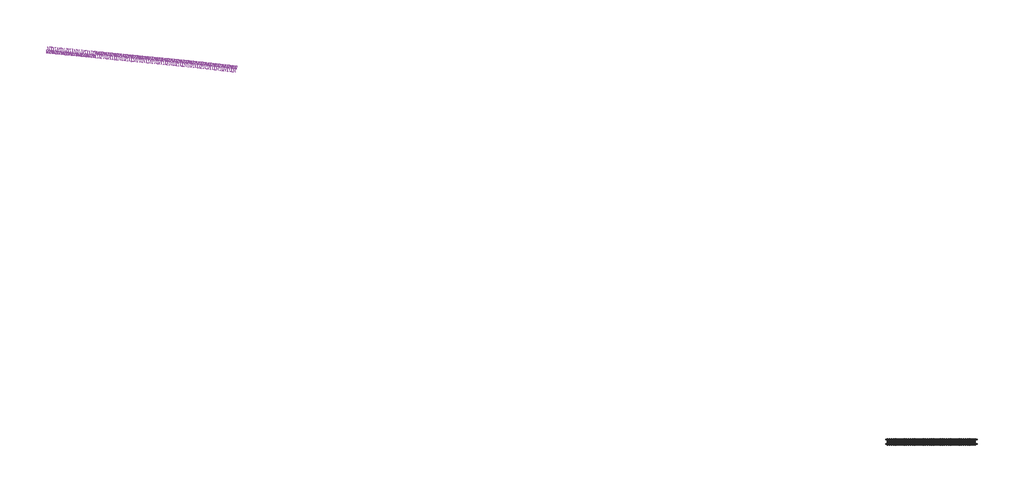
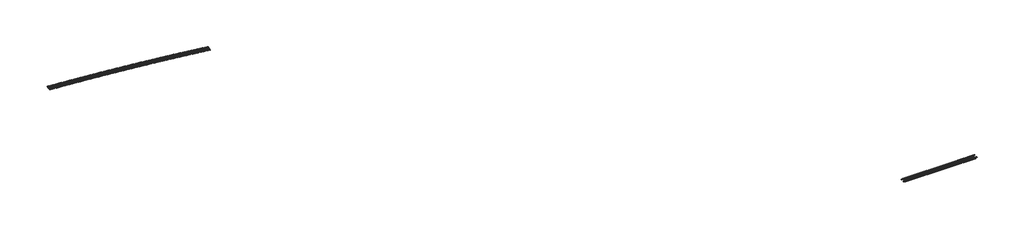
# One storey, incomplete: 101 proxies, 1 beam.
"""IFC4 building model written with IfcOpenShell, lengths in millimetres."""

from ifc_helpers import new_model, si_unit, origin, place, context, project, spatial, transform, mapped, element, save
from components import beam_23171de8, generic_models_179fccb8, generic_models_ea4c993b, generic_models_ed3b71c7, generic_models_61b4f6cf, generic_models_5d0987d1, generic_models_8ed5b6d6, generic_models_86caeae3, generic_models_1adfb590, generic_models_c417fa0d, generic_models_dda2165d, generic_models_a6f90dc1, generic_models_0867c004, generic_models_b2339178, generic_models_98fa9b51, generic_models_01f94ae9, generic_models_043a35da, generic_models_c67f2c29, generic_models_156f3868, generic_models_13331742, generic_models_0d819f28, generic_models_bf0e6d81, generic_models_ec5337a3, generic_models_47e99a7a, generic_models_9c5fc2fe, generic_models_2c5e1e1f, generic_models_77109654, generic_models_187618a6, generic_models_36daaabd, generic_models_f6c2db3f, generic_models_1d3b1d61, generic_models_3818f4c7, generic_models_c544768d, generic_models_72948029, generic_models_dd2f06ac, generic_models_d70fb252, generic_models_4213d253, generic_models_a7439df7, generic_models_e8be50a1, generic_models_772f56ea, generic_models_eaf7fc0b, generic_models_beb8aa8f, generic_models_f02bd38a, generic_models_c754ccd0, generic_models_18f15232, generic_models_4fb6ce47, generic_models_d8a670aa, generic_models_1a4d9871, generic_models_e3a1b71d, generic_models_530a410d, generic_models_fe35dbd4, generic_models_3ec5e151, generic_models_936076ed, generic_models_f7b6edd5, generic_models_f7a9a12e, generic_models_0c4ac25e, generic_models_b0db9e45, generic_models_cefc3702, generic_models_38f69925, generic_models_1c279534, generic_models_e3718a07, generic_models_45b08c93, generic_models_d64c65d5, generic_models_d60f3cee, generic_models_a82ee30d, generic_models_38b48816, generic_models_0c9b72dc, generic_models_50e4a4a2, generic_models_ad6345b7, generic_models_1f48964c, generic_models_43f668e8, generic_models_93a9f04b, generic_models_ad5c2b97, generic_models_d674cbcc, generic_models_04158120, generic_models_c52056a7, generic_models_c93b52b8, generic_models_31639ee7, generic_models_8f825d83, generic_models_c732b215, generic_models_11ccf94b, generic_models_1c9ec795, generic_models_1d941e77, generic_models_b9d4fef1, generic_models_031e3dbe, generic_models_11c14676, generic_models_1397490d

model = new_model("IFC4")

# Units and contexts
model_context = context("Model", 3, world=origin())
ifc_project = project(units=[si_unit("LENGTHUNIT", "METRE", prefix="MILLI")], contexts=[model_context])

# Site, building, storey
site = spatial("IfcSite", under=ifc_project)
building = spatial("IfcBuilding", under=site)
storey = spatial("IfcBuildingStorey", under=building, Name="标高 2", Elevation=3000.0)

# Beam
placement = place(None, origin())
beam_shape = beam_23171de8(model_context)
element("IfcBeam", 1, ObjectType="轨道 : 轨道", at=placement, inside=storey, context=model_context, shape_type="MappedRepresentation", body=[
    mapped(beam_shape, transform((-2607.9451664, 7300.2704196, 3000.0), x_axis=(1.0, 0.0, 0.0), y_axis=(0.0, 1.0, 0.0), z_axis=(0.0, 0.0, 1.0))),
])

# Proxies
generic_models_shape = generic_models_179fccb8(model_context)
element("IfcBuildingElementProxy", 2, Name="轨枕-立面角度 : 轨枕-立面角度", ObjectType="轨枕-立面角度 : 轨枕-立面角度", at=placement, inside=storey, context=model_context, shape_type="MappedRepresentation", body=[
    mapped(generic_models_shape, transform((-282406.83332, 131306.0226466, 59323.0), x_axis=(-0.09785183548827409, -0.9952009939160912, 0.0), y_axis=(0.9952009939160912, -0.09785183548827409, 0.0), z_axis=(0.0, 0.0, 1.0))),
])
generic_models_2_shape = generic_models_ea4c993b(model_context)
element("IfcBuildingElementProxy", 3, Name="轨枕-立面角度 : 轨枕-立面角度", ObjectType="轨枕-立面角度 : 轨枕-立面角度", at=placement, inside=storey, context=model_context, shape_type="MappedRepresentation", body=[
    mapped(generic_models_2_shape, transform((-281809.7127237, 131247.311545, 59331.8840867), x_axis=(-0.09785183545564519, -0.9952009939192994, 0.0), y_axis=(0.9952009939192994, -0.09785183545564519, 0.0), z_axis=(0.0, 0.0, 1.0))),
])
generic_models_3_shape = generic_models_ed3b71c7(model_context)
element("IfcBuildingElementProxy", 4, Name="轨枕-立面角度 : 轨枕-立面角度", ObjectType="轨枕-立面角度 : 轨枕-立面角度", at=placement, inside=storey, context=model_context, shape_type="MappedRepresentation", body=[
    mapped(generic_models_3_shape, transform((-281212.5921273, 131188.6004438, 59340.4201233), x_axis=(-0.09785183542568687, -0.995200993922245, 0.0), y_axis=(0.995200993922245, -0.09785183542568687, 0.0), z_axis=(0.0, 0.0, 1.0))),
])
generic_models_4_shape = generic_models_61b4f6cf(model_context)
element("IfcBuildingElementProxy", 5, Name="轨枕-立面角度 : 轨枕-立面角度", ObjectType="轨枕-立面角度 : 轨枕-立面角度", at=placement, inside=storey, context=model_context, shape_type="MappedRepresentation", body=[
    mapped(generic_models_4_shape, transform((-280615.471531, 131129.8893427, 59348.6073225), x_axis=(-0.09785183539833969, -0.9952009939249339, 0.0), y_axis=(0.9952009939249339, -0.09785183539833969, 0.0), z_axis=(0.0, 0.0, 1.0))),
])
generic_models_5_shape = generic_models_5d0987d1(model_context)
element("IfcBuildingElementProxy", 6, Name="轨枕-立面角度 : 轨枕-立面角度", ObjectType="轨枕-立面角度 : 轨枕-立面角度", at=placement, inside=storey, context=model_context, shape_type="MappedRepresentation", body=[
    mapped(generic_models_5_shape, transform((-280018.3509346, 131071.1782416, 59356.4449464), x_axis=(-0.09785183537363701, -0.9952009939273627, 0.0), y_axis=(0.9952009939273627, -0.09785183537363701, 0.0), z_axis=(0.0, 0.0, 1.0))),
])
generic_models_6_shape = generic_models_8ed5b6d6(model_context)
element("IfcBuildingElementProxy", 7, Name="轨枕-立面角度 : 轨枕-立面角度", ObjectType="轨枕-立面角度 : 轨枕-立面角度", at=placement, inside=storey, context=model_context, shape_type="MappedRepresentation", body=[
    mapped(generic_models_6_shape, transform((-279421.2303382, 131012.4671404, 59363.932836), x_axis=(-0.09785183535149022, -0.9952009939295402, 0.0), y_axis=(0.9952009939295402, -0.09785183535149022, 0.0), z_axis=(0.0, 0.0, 1.0))),
])
generic_models_7_shape = generic_models_86caeae3(model_context)
element("IfcBuildingElementProxy", 8, Name="轨枕-立面角度 : 轨枕-立面角度", ObjectType="轨枕-立面角度 : 轨枕-立面角度", at=placement, inside=storey, context=model_context, shape_type="MappedRepresentation", body=[
    mapped(generic_models_7_shape, transform((-278824.1097419, 130953.7560394, 59371.071161), x_axis=(-0.09785183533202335, -0.9952009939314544, 0.0), y_axis=(0.9952009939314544, -0.09785183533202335, 0.0), z_axis=(0.0, 0.0, 1.0))),
])
generic_models_8_shape = generic_models_1adfb590(model_context)
element("IfcBuildingElementProxy", 9, Name="轨枕-立面角度 : 轨枕-立面角度", ObjectType="轨枕-立面角度 : 轨枕-立面角度", at=placement, inside=storey, context=model_context, shape_type="MappedRepresentation", body=[
    mapped(generic_models_8_shape, transform((-278226.9891455, 130895.0449381, 59377.8599174), x_axis=(-0.09785183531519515, -0.995200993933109, 0.0), y_axis=(0.995200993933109, -0.09785183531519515, 0.0), z_axis=(0.0, 0.0, 1.0))),
])
generic_models_9_shape = generic_models_c417fa0d(model_context)
element("IfcBuildingElementProxy", 10, Name="轨枕-立面角度 : 轨枕-立面角度", ObjectType="轨枕-立面角度 : 轨枕-立面角度", at=placement, inside=storey, context=model_context, shape_type="MappedRepresentation", body=[
    mapped(generic_models_9_shape, transform((-277629.8685492, 130836.3338366, 59384.2990821), x_axis=(-0.09785183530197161, -0.9952009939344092, 0.0), y_axis=(0.9952009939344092, -0.09785183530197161, 0.0), z_axis=(0.0, 0.0, 1.0))),
])
generic_models_10_shape = generic_models_dda2165d(model_context)
element("IfcBuildingElementProxy", 11, Name="轨枕-立面角度 : 轨枕-立面角度", ObjectType="轨枕-立面角度 : 轨枕-立面角度", at=placement, inside=storey, context=model_context, shape_type="MappedRepresentation", body=[
    mapped(generic_models_10_shape, transform((-277032.7479528, 130777.6227354, 59390.3886727), x_axis=(-0.0978518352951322, -0.9952009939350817, 0.0), y_axis=(0.9952009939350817, -0.0978518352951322, 0.0), z_axis=(0.0, 0.0, 1.0))),
])
generic_models_11_shape = generic_models_a6f90dc1(model_context)
element("IfcBuildingElementProxy", 12, Name="轨枕-立面角度 : 轨枕-立面角度", ObjectType="轨枕-立面角度 : 轨枕-立面角度", at=placement, inside=storey, context=model_context, shape_type="MappedRepresentation", body=[
    mapped(generic_models_11_shape, transform((-276435.6273564, 130718.9116343, 59396.1286986), x_axis=(-0.09785183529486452, -0.9952009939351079, 0.0), y_axis=(0.9952009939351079, -0.09785183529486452, 0.0), z_axis=(0.0, 0.0, 1.0))),
])
generic_models_12_shape = generic_models_0867c004(model_context)
element("IfcBuildingElementProxy", 13, Name="轨枕-立面角度 : 轨枕-立面角度", ObjectType="轨枕-立面角度 : 轨枕-立面角度", at=placement, inside=storey, context=model_context, shape_type="MappedRepresentation", body=[
    mapped(generic_models_12_shape, transform((-275838.5067601, 130660.2005332, 59401.5191627), x_axis=(-0.09785183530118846, -0.995200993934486, 0.0), y_axis=(0.995200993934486, -0.09785183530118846, 0.0), z_axis=(0.0, 0.0, 1.0))),
])
generic_models_13_shape = generic_models_b2339178(model_context)
element("IfcBuildingElementProxy", 14, Name="轨枕-立面角度 : 轨枕-立面角度", ObjectType="轨枕-立面角度 : 轨枕-立面角度", at=placement, inside=storey, context=model_context, shape_type="MappedRepresentation", body=[
    mapped(generic_models_13_shape, transform((-275241.3861637, 130601.4894321, 59406.5600708), x_axis=(-0.09785183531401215, -0.9952009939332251, 0.0), y_axis=(0.9952009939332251, -0.09785183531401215, 0.0), z_axis=(0.0, 0.0, 1.0))),
])
generic_models_14_shape = generic_models_98fa9b51(model_context)
element("IfcBuildingElementProxy", 15, Name="轨枕-立面角度 : 轨枕-立面角度", ObjectType="轨枕-立面角度 : 轨枕-立面角度", at=placement, inside=storey, context=model_context, shape_type="MappedRepresentation", body=[
    mapped(generic_models_14_shape, transform((-274644.2655673, 130542.778331, 59411.2514286), x_axis=(-0.09785183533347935, -0.9952009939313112, 0.0), y_axis=(0.9952009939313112, -0.09785183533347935, 0.0), z_axis=(0.0, 0.0, 1.0))),
])
generic_models_15_shape = generic_models_01f94ae9(model_context)
element("IfcBuildingElementProxy", 16, Name="轨枕-立面角度 : 轨枕-立面角度", ObjectType="轨枕-立面角度 : 轨枕-立面角度", at=placement, inside=storey, context=model_context, shape_type="MappedRepresentation", body=[
    mapped(generic_models_15_shape, transform((-274047.144971, 130484.0672296, 59415.5932409), x_axis=(-0.09785183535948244, -0.9952009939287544, 0.0), y_axis=(0.9952009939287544, -0.09785183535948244, 0.0), z_axis=(0.0, 0.0, 1.0))),
])
generic_models_16_shape = generic_models_043a35da(model_context)
element("IfcBuildingElementProxy", 17, Name="轨枕-立面角度 : 轨枕-立面角度", ObjectType="轨枕-立面角度 : 轨枕-立面角度", at=placement, inside=storey, context=model_context, shape_type="MappedRepresentation", body=[
    mapped(generic_models_16_shape, transform((-273450.0243747, 130425.3561282, 59419.5855122), x_axis=(-0.09785183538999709, -0.9952009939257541, 0.0), y_axis=(0.9952009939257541, -0.09785183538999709, 0.0), z_axis=(0.0, 0.0, 1.0))),
])
generic_models_17_shape = generic_models_c67f2c29(model_context)
element("IfcBuildingElementProxy", 18, Name="轨枕-立面角度 : 轨枕-立面角度", ObjectType="轨枕-立面角度 : 轨枕-立面角度", at=placement, inside=storey, context=model_context, shape_type="MappedRepresentation", body=[
    mapped(generic_models_17_shape, transform((-272852.9037783, 130366.645027, 59423.2282465), x_axis=(-0.09785183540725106, -0.9952009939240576, 0.0), y_axis=(0.9952009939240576, -0.09785183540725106, 0.0), z_axis=(0.0, 0.0, 1.0))),
])
generic_models_18_shape = generic_models_156f3868(model_context)
element("IfcBuildingElementProxy", 19, Name="轨枕-立面角度 : 轨枕-立面角度", ObjectType="轨枕-立面角度 : 轨枕-立面角度", at=placement, inside=storey, context=model_context, shape_type="MappedRepresentation", body=[
    mapped(generic_models_18_shape, transform((-272255.7831819, 130307.933926, 59426.5214479), x_axis=(-0.09785183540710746, -0.9952009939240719, 0.0), y_axis=(0.9952009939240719, -0.09785183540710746, 0.0), z_axis=(0.0, 0.0, 1.0))),
])
generic_models_19_shape = generic_models_13331742(model_context)
element("IfcBuildingElementProxy", 20, Name="轨枕-立面角度 : 轨枕-立面角度", ObjectType="轨枕-立面角度 : 轨枕-立面角度", at=placement, inside=storey, context=model_context, shape_type="MappedRepresentation", body=[
    mapped(generic_models_19_shape, transform((-271658.6625856, 130249.2228248, 59429.4651196), x_axis=(-0.09785183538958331, -0.9952009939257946, 0.0), y_axis=(0.9952009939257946, -0.09785183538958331, 0.0), z_axis=(0.0, 0.0, 1.0))),
])
generic_models_20_shape = generic_models_0d819f28(model_context)
element("IfcBuildingElementProxy", 21, Name="轨枕-立面角度 : 轨枕-立面角度", ObjectType="轨枕-立面角度 : 轨枕-立面角度", at=placement, inside=storey, context=model_context, shape_type="MappedRepresentation", body=[
    mapped(generic_models_20_shape, transform((-271061.5419892, 130190.5117237, 59432.0592647), x_axis=(-0.09785183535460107, -0.9952009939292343, 0.0), y_axis=(0.9952009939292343, -0.09785183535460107, 0.0), z_axis=(0.0, 0.0, 1.0))),
])
generic_models_21_shape = generic_models_bf0e6d81(model_context)
element("IfcBuildingElementProxy", 22, Name="轨枕-立面角度 : 轨枕-立面角度", ObjectType="轨枕-立面角度 : 轨枕-立面角度", at=placement, inside=storey, context=model_context, shape_type="MappedRepresentation", body=[
    mapped(generic_models_21_shape, transform((-270464.4213928, 130131.8006226, 59434.3038861), x_axis=(-0.09785183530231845, -0.9952009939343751, 0.0), y_axis=(0.9952009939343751, -0.09785183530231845, 0.0), z_axis=(0.0, 0.0, 1.0))),
])
generic_models_22_shape = generic_models_ec5337a3(model_context)
element("IfcBuildingElementProxy", 23, Name="轨枕-立面角度 : 轨枕-立面角度", ObjectType="轨枕-立面角度 : 轨枕-立面角度", at=placement, inside=storey, context=model_context, shape_type="MappedRepresentation", body=[
    mapped(generic_models_22_shape, transform((-269867.3007965, 130073.0895215, 59436.1989862), x_axis=(-0.09785183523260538, -0.9952009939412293, 0.0), y_axis=(0.9952009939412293, -0.09785183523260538, 0.0), z_axis=(0.0, 0.0, 1.0))),
])
generic_models_23_shape = generic_models_47e99a7a(model_context)
element("IfcBuildingElementProxy", 24, Name="轨枕-立面角度 : 轨枕-立面角度", ObjectType="轨枕-立面角度 : 轨枕-立面角度", at=placement, inside=storey, context=model_context, shape_type="MappedRepresentation", body=[
    mapped(generic_models_23_shape, transform((-269270.1802001, 130014.3784203, 59437.7445668), x_axis=(-0.09785183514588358, -0.9952009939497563, 0.0), y_axis=(0.9952009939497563, -0.09785183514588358, 0.0), z_axis=(0.0, 0.0, 1.0))),
])
generic_models_24_shape = generic_models_9c5fc2fe(model_context)
element("IfcBuildingElementProxy", 25, Name="轨枕-立面角度 : 轨枕-立面角度", ObjectType="轨枕-立面角度 : 轨枕-立面角度", at=placement, inside=storey, context=model_context, shape_type="MappedRepresentation", body=[
    mapped(generic_models_24_shape, transform((-268673.0596038, 129955.6673188, 59438.9406298), x_axis=(-0.0978518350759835, -0.9952009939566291, 0.0), y_axis=(0.9952009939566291, -0.0978518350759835, 0.0), z_axis=(0.0, 0.0, 1.0))),
])
generic_models_25_shape = generic_models_2c5e1e1f(model_context)
element("IfcBuildingElementProxy", 26, Name="轨枕-立面角度 : 轨枕-立面角度", ObjectType="轨枕-立面角度 : 轨枕-立面角度", at=placement, inside=storey, context=model_context, shape_type="MappedRepresentation", body=[
    mapped(generic_models_25_shape, transform((-268075.9390074, 129896.9562175, 59439.7871763), x_axis=(-0.09785183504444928, -0.9952009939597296, 0.0), y_axis=(0.9952009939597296, -0.09785183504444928, 0.0), z_axis=(0.0, 0.0, 1.0))),
])
generic_models_26_shape = generic_models_77109654(model_context)
element("IfcBuildingElementProxy", 27, Name="轨枕-立面角度 : 轨枕-立面角度", ObjectType="轨枕-立面角度 : 轨枕-立面角度", at=placement, inside=storey, context=model_context, shape_type="MappedRepresentation", body=[
    mapped(generic_models_26_shape, transform((-267478.818411, 129838.2451165, 59440.2842075), x_axis=(-0.09785183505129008, -0.9952009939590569, 0.0), y_axis=(0.9952009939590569, -0.09785183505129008, 0.0), z_axis=(0.0, 0.0, 1.0))),
])
generic_models_27_shape = generic_models_187618a6(model_context)
element("IfcBuildingElementProxy", 28, Name="轨枕-立面角度 : 轨枕-立面角度", ObjectType="轨枕-立面角度 : 轨枕-立面角度", at=placement, inside=storey, context=model_context, shape_type="MappedRepresentation", body=[
    mapped(generic_models_27_shape, transform((-266881.6978147, 129779.5340153, 59440.4317238), x_axis=(-0.09785183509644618, -0.995200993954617, 0.0), y_axis=(0.995200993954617, -0.09785183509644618, 0.0), z_axis=(0.0, 0.0, 1.0))),
])
generic_models_28_shape = generic_models_36daaabd(model_context)
element("IfcBuildingElementProxy", 29, Name="轨枕-立面角度 : 轨枕-立面角度", ObjectType="轨枕-立面角度 : 轨枕-立面角度", at=placement, inside=storey, context=model_context, shape_type="MappedRepresentation", body=[
    mapped(generic_models_28_shape, transform((-266284.5772183, 129720.8229142, 59440.2297256), x_axis=(-0.09785183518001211, -0.9952009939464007, 0.0), y_axis=(0.9952009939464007, -0.09785183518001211, 0.0), z_axis=(0.0, 0.0, 1.0))),
])
generic_models_29_shape = generic_models_f6c2db3f(model_context)
element("IfcBuildingElementProxy", 30, Name="轨枕-立面角度 : 轨枕-立面角度", ObjectType="轨枕-立面角度 : 轨枕-立面角度", at=placement, inside=storey, context=model_context, shape_type="MappedRepresentation", body=[
    mapped(generic_models_29_shape, transform((-265687.4566219, 129662.1118131, 59439.6782127), x_axis=(-0.0978518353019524, -0.995200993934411, 0.0), y_axis=(0.995200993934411, -0.0978518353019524, 0.0), z_axis=(0.0, 0.0, 1.0))),
])
generic_models_30_shape = generic_models_1d3b1d61(model_context)
element("IfcBuildingElementProxy", 31, Name="轨枕-立面角度 : 轨枕-立面角度", ObjectType="轨枕-立面角度 : 轨枕-立面角度", at=placement, inside=storey, context=model_context, shape_type="MappedRepresentation", body=[
    mapped(generic_models_30_shape, transform((-265090.3360256, 129603.400712, 59438.7771847), x_axis=(-0.09785183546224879, -0.9952009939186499, 0.0), y_axis=(0.9952009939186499, -0.09785183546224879, 0.0), z_axis=(0.0, 0.0, 1.0))),
])
generic_models_31_shape = generic_models_3818f4c7(model_context)
element("IfcBuildingElementProxy", 32, Name="轨枕-立面角度 : 轨枕-立面角度", ObjectType="轨枕-立面角度 : 轨枕-立面角度", at=placement, inside=storey, context=model_context, shape_type="MappedRepresentation", body=[
    mapped(generic_models_31_shape, transform((-264493.2154292, 129544.6896109, 59437.5266407), x_axis=(-0.09785183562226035, -0.9952009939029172, 0.0), y_axis=(0.9952009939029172, -0.09785183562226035, 0.0), z_axis=(0.0, 0.0, 1.0))),
])
generic_models_32_shape = generic_models_c544768d(model_context)
element("IfcBuildingElementProxy", 33, Name="轨枕-立面角度 : 轨枕-立面角度", ObjectType="轨枕-立面角度 : 轨枕-立面角度", at=placement, inside=storey, context=model_context, shape_type="MappedRepresentation", body=[
    mapped(generic_models_32_shape, transform((-263896.0948328, 129485.9785098, 59435.9265796), x_axis=(-0.09785183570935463, -0.9952009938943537, 0.0), y_axis=(0.9952009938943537, -0.09785183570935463, 0.0), z_axis=(0.0, 0.0, 1.0))),
])
generic_models_33_shape = generic_models_72948029(model_context)
element("IfcBuildingElementProxy", 34, Name="轨枕-立面角度 : 轨枕-立面角度", ObjectType="轨枕-立面角度 : 轨枕-立面角度", at=placement, inside=storey, context=model_context, shape_type="MappedRepresentation", body=[
    mapped(generic_models_33_shape, transform((-263298.9742365, 129427.2674086, 59433.9769999), x_axis=(-0.09785183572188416, -0.9952009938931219, 0.0), y_axis=(0.9952009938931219, -0.09785183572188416, 0.0), z_axis=(0.0, 0.0, 1.0))),
])
generic_models_34_shape = generic_models_dd2f06ac(model_context)
element("IfcBuildingElementProxy", 35, Name="轨枕-立面角度 : 轨枕-立面角度", ObjectType="轨枕-立面角度 : 轨枕-立面角度", at=placement, inside=storey, context=model_context, shape_type="MappedRepresentation", body=[
    mapped(generic_models_34_shape, transform((-262701.8536401, 129368.5563075, 59431.6778995), x_axis=(-0.09785183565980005, -0.995200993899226, 0.0), y_axis=(0.995200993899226, -0.09785183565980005, 0.0), z_axis=(0.0, 0.0, 1.0))),
])
generic_models_35_shape = generic_models_d70fb252(model_context)
element("IfcBuildingElementProxy", 36, Name="轨枕-立面角度 : 轨枕-立面角度", ObjectType="轨枕-立面角度 : 轨枕-立面角度", at=placement, inside=storey, context=model_context, shape_type="MappedRepresentation", body=[
    mapped(generic_models_35_shape, transform((-262104.7330437, 129309.8452065, 59429.0292764), x_axis=(-0.09785183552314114, -0.9952009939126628, 0.0), y_axis=(0.9952009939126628, -0.09785183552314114, 0.0), z_axis=(0.0, 0.0, 1.0))),
])
generic_models_36_shape = generic_models_4213d253(model_context)
element("IfcBuildingElementProxy", 37, Name="轨枕-立面角度 : 轨枕-立面角度", ObjectType="轨枕-立面角度 : 轨枕-立面角度", at=placement, inside=storey, context=model_context, shape_type="MappedRepresentation", body=[
    mapped(generic_models_36_shape, transform((-261507.6124474, 129251.1341053, 59426.0311279), x_axis=(-0.09785183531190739, -0.9952009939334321, 0.0), y_axis=(0.9952009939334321, -0.09785183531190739, 0.0), z_axis=(0.0, 0.0, 1.0))),
])
generic_models_37_shape = generic_models_a7439df7(model_context)
element("IfcBuildingElementProxy", 38, Name="轨枕-立面角度 : 轨枕-立面角度", ObjectType="轨枕-立面角度 : 轨枕-立面角度", at=placement, inside=storey, context=model_context, shape_type="MappedRepresentation", body=[
    mapped(generic_models_37_shape, transform((-260910.491851, 129192.4230038, 59422.6834511), x_axis=(-0.09785183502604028, -0.9952009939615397, 0.0), y_axis=(0.9952009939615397, -0.09785183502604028, 0.0), z_axis=(0.0, 0.0, 1.0))),
])
generic_models_38_shape = generic_models_e8be50a1(model_context)
element("IfcBuildingElementProxy", 39, Name="轨枕-立面角度 : 轨枕-立面角度", ObjectType="轨枕-立面角度 : 轨枕-立面角度", at=placement, inside=storey, context=model_context, shape_type="MappedRepresentation", body=[
    mapped(generic_models_38_shape, transform((-260313.3712547, 129133.7119025, 59418.9862426), x_axis=(-0.0978518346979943, -0.9952009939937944, 0.0), y_axis=(0.9952009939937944, -0.0978518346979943, 0.0), z_axis=(0.0, 0.0, 1.0))),
])
generic_models_39_shape = generic_models_772f56ea(model_context)
element("IfcBuildingElementProxy", 40, Name="轨枕-立面角度 : 轨枕-立面角度", ObjectType="轨枕-立面角度 : 轨枕-立面角度", at=placement, inside=storey, context=model_context, shape_type="MappedRepresentation", body=[
    mapped(generic_models_39_shape, transform((-259716.2506583, 129075.0008014, 59414.9394987), x_axis=(-0.09785183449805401, -0.9952009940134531, 0.0), y_axis=(0.9952009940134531, -0.09785183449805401, 0.0), z_axis=(0.0, 0.0, 1.0))),
])
generic_models_40_shape = generic_models_eaf7fc0b(model_context)
element("IfcBuildingElementProxy", 41, Name="轨枕-立面角度 : 轨枕-立面角度", ObjectType="轨枕-立面角度 : 轨枕-立面角度", at=placement, inside=storey, context=model_context, shape_type="MappedRepresentation", body=[
    mapped(generic_models_40_shape, transform((-259119.130062, 129016.2897003, 59410.5432155), x_axis=(-0.0978518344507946, -0.9952009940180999, 0.0), y_axis=(0.9952009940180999, -0.0978518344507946, 0.0), z_axis=(0.0, 0.0, 1.0))),
])
generic_models_41_shape = generic_models_beb8aa8f(model_context)
element("IfcBuildingElementProxy", 42, Name="轨枕-立面角度 : 轨枕-立面角度", ObjectType="轨枕-立面角度 : 轨枕-立面角度", at=placement, inside=storey, context=model_context, shape_type="MappedRepresentation", body=[
    mapped(generic_models_41_shape, transform((-258522.0094656, 128957.5785992, 59405.7973886), x_axis=(-0.097851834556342, -0.9952009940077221, 0.0), y_axis=(0.9952009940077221, -0.097851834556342, 0.0), z_axis=(0.0, 0.0, 1.0))),
])
generic_models_42_shape = generic_models_f02bd38a(model_context)
element("IfcBuildingElementProxy", 43, Name="轨枕-立面角度 : 轨枕-立面角度", ObjectType="轨枕-立面角度 : 轨枕-立面角度", at=placement, inside=storey, context=model_context, shape_type="MappedRepresentation", body=[
    mapped(generic_models_42_shape, transform((-257924.8888692, 128898.8674981, 59400.7020132), x_axis=(-0.09785183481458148, -0.9952009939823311, 0.0), y_axis=(0.9952009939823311, -0.09785183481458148, 0.0), z_axis=(0.0, 0.0, 1.0))),
])
generic_models_43_shape = generic_models_c754ccd0(model_context)
element("IfcBuildingElementProxy", 44, Name="轨枕-立面角度 : 轨枕-立面角度", ObjectType="轨枕-立面角度 : 轨枕-立面角度", at=placement, inside=storey, context=model_context, shape_type="MappedRepresentation", body=[
    mapped(generic_models_43_shape, transform((-257327.7682729, 128840.1563968, 59395.2570843), x_axis=(-0.09785183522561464, -0.9952009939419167, 0.0), y_axis=(0.9952009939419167, -0.09785183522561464, 0.0), z_axis=(0.0, 0.0, 1.0))),
])
generic_models_44_shape = generic_models_18f15232(model_context)
element("IfcBuildingElementProxy", 45, Name="轨枕-立面角度 : 轨枕-立面角度", ObjectType="轨枕-立面角度 : 轨枕-立面角度", at=placement, inside=storey, context=model_context, shape_type="MappedRepresentation", body=[
    mapped(generic_models_44_shape, transform((-256730.6476765, 128781.4452953, 59389.4625964), x_axis=(-0.09785183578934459, -0.9952009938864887, 0.0), y_axis=(0.9952009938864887, -0.09785183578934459, 0.0), z_axis=(0.0, 0.0, 1.0))),
])
generic_models_45_shape = generic_models_4fb6ce47(model_context)
element("IfcBuildingElementProxy", 46, Name="轨枕-立面角度 : 轨枕-立面角度", ObjectType="轨枕-立面角度 : 轨枕-立面角度", at=placement, inside=storey, context=model_context, shape_type="MappedRepresentation", body=[
    mapped(generic_models_45_shape, transform((-256133.5270802, 128722.7341941, 59383.3185436), x_axis=(-0.09785183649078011, -0.9952009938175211, 0.0), y_axis=(0.9952009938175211, -0.09785183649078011, 0.0), z_axis=(0.0, 0.0, 1.0))),
])
generic_models_46_shape = generic_models_d8a670aa(model_context)
element("IfcBuildingElementProxy", 47, Name="轨枕-立面角度 : 轨枕-立面角度", ObjectType="轨枕-立面角度 : 轨枕-立面角度", at=placement, inside=storey, context=model_context, shape_type="MappedRepresentation", body=[
    mapped(generic_models_46_shape, transform((-255536.4064838, 128664.023093, 59376.8249199), x_axis=(-0.09785183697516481, -0.9952009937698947, 0.0), y_axis=(0.9952009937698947, -0.09785183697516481, 0.0), z_axis=(0.0, 0.0, 1.0))),
])
generic_models_47_shape = generic_models_1a4d9871(model_context)
element("IfcBuildingElementProxy", 48, Name="轨枕-立面角度 : 轨枕-立面角度", ObjectType="轨枕-立面角度 : 轨枕-立面角度", at=placement, inside=storey, context=model_context, shape_type="MappedRepresentation", body=[
    mapped(generic_models_47_shape, transform((-254939.2858874, 128605.3119919, 59369.9817187), x_axis=(-0.09785183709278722, -0.9952009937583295, 0.0), y_axis=(0.9952009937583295, -0.09785183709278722, 0.0), z_axis=(0.0, 0.0, 1.0))),
])
generic_models_48_shape = generic_models_e3a1b71d(model_context)
element("IfcBuildingElementProxy", 49, Name="轨枕-立面角度 : 轨枕-立面角度", ObjectType="轨枕-立面角度 : 轨枕-立面角度", at=placement, inside=storey, context=model_context, shape_type="MappedRepresentation", body=[
    mapped(generic_models_48_shape, transform((-254342.1652911, 128546.6008908, 59362.7889332), x_axis=(-0.09785183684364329, -0.9952009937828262, 0.0), y_axis=(0.9952009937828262, -0.09785183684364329, 0.0), z_axis=(0.0, 0.0, 1.0))),
])
generic_models_49_shape = generic_models_530a410d(model_context)
element("IfcBuildingElementProxy", 50, Name="轨枕-立面角度 : 轨枕-立面角度", ObjectType="轨枕-立面角度 : 轨枕-立面角度", at=placement, inside=storey, context=model_context, shape_type="MappedRepresentation", body=[
    mapped(generic_models_49_shape, transform((-253745.0446947, 128487.8897897, 59355.246556), x_axis=(-0.09785183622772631, -0.9952009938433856, 0.0), y_axis=(0.9952009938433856, -0.09785183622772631, 0.0), z_axis=(0.0, 0.0, 1.0))),
])
generic_models_50_shape = generic_models_fe35dbd4(model_context)
element("IfcBuildingElementProxy", 51, Name="轨枕-立面角度 : 轨枕-立面角度", ObjectType="轨枕-立面角度 : 轨枕-立面角度", at=placement, inside=storey, context=model_context, shape_type="MappedRepresentation", body=[
    mapped(generic_models_50_shape, transform((-253147.9240984, 128429.1786883, 59347.3545798), x_axis=(-0.09785183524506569, -0.9952009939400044, 0.0), y_axis=(0.9952009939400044, -0.09785183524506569, 0.0), z_axis=(0.0, 0.0, 1.0))),
])
generic_models_51_shape = generic_models_3ec5e151(model_context)
element("IfcBuildingElementProxy", 52, Name="轨枕-立面角度 : 轨枕-立面角度", ObjectType="轨枕-立面角度 : 轨枕-立面角度", at=placement, inside=storey, context=model_context, shape_type="MappedRepresentation", body=[
    mapped(generic_models_51_shape, transform((-252550.803502, 128370.4675869, 59339.1129963), x_axis=(-0.0978518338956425, -0.9952009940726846, 0.0), y_axis=(0.9952009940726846, -0.0978518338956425, 0.0), z_axis=(0.0, 0.0, 1.0))),
])
generic_models_52_shape = generic_models_936076ed(model_context)
element("IfcBuildingElementProxy", 53, Name="轨枕-立面角度 : 轨枕-立面角度", ObjectType="轨枕-立面角度 : 轨枕-立面角度", at=placement, inside=storey, context=model_context, shape_type="MappedRepresentation", body=[
    mapped(generic_models_52_shape, transform((-251953.6829057, 128311.7564858, 59330.5217975), x_axis=(-0.0978518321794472, -0.9952009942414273, 0.0), y_axis=(0.9952009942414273, -0.0978518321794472, 0.0), z_axis=(0.0, 0.0, 1.0))),
])
generic_models_53_shape = generic_models_f7b6edd5(model_context)
element("IfcBuildingElementProxy", 54, Name="轨枕-立面角度 : 轨枕-立面角度", ObjectType="轨枕-立面角度 : 轨枕-立面角度", at=placement, inside=storey, context=model_context, shape_type="MappedRepresentation", body=[
    mapped(generic_models_53_shape, transform((-251356.5623093, 128253.0453846, 59321.5809748), x_axis=(-0.09785183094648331, -0.9952009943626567, 0.0), y_axis=(0.9952009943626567, -0.09785183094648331, 0.0), z_axis=(0.0, 0.0, 1.0))),
])
generic_models_54_shape = generic_models_f7a9a12e(model_context)
element("IfcBuildingElementProxy", 55, Name="轨枕-立面角度 : 轨枕-立面角度", ObjectType="轨枕-立面角度 : 轨枕-立面角度", at=placement, inside=storey, context=model_context, shape_type="MappedRepresentation", body=[
    mapped(generic_models_54_shape, transform((-250759.441713, 128194.3342833, 59312.2905189), x_axis=(-0.09785183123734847, -0.9952009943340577, 0.0), y_axis=(0.9952009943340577, -0.09785183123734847, 0.0), z_axis=(0.0, 0.0, 1.0))),
])
generic_models_55_shape = generic_models_0c4ac25e(model_context)
element("IfcBuildingElementProxy", 56, Name="轨枕-立面角度 : 轨枕-立面角度", ObjectType="轨枕-立面角度 : 轨枕-立面角度", at=placement, inside=storey, context=model_context, shape_type="MappedRepresentation", body=[
    mapped(generic_models_55_shape, transform((-250162.3211165, 128135.6231832, 59302.6504197), x_axis=(-0.09785183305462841, -0.9952009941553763, 0.0), y_axis=(0.9952009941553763, -0.09785183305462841, 0.0), z_axis=(0.0, 0.0, 1.0))),
])
generic_models_56_shape = generic_models_b0db9e45(model_context)
element("IfcBuildingElementProxy", 57, Name="轨枕-立面角度 : 轨枕-立面角度", ObjectType="轨枕-立面角度 : 轨枕-立面角度", at=placement, inside=storey, context=model_context, shape_type="MappedRepresentation", body=[
    mapped(generic_models_56_shape, transform((-249565.2005202, 128076.9120813, 59292.6606698), x_axis=(-0.09785183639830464, -0.9952009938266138, 0.0), y_axis=(0.9952009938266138, -0.09785183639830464, 0.0), z_axis=(0.0, 0.0, 1.0))),
])
generic_models_57_shape = generic_models_cefc3702(model_context)
element("IfcBuildingElementProxy", 58, Name="轨枕-立面角度 : 轨枕-立面角度", ObjectType="轨枕-立面角度 : 轨枕-立面角度", at=placement, inside=storey, context=model_context, shape_type="MappedRepresentation", body=[
    mapped(generic_models_57_shape, transform((-248968.0799242, 128018.2009763, 59282.3212602), x_axis=(-0.09785184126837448, -0.9952009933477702, 0.0), y_axis=(0.9952009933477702, -0.09785184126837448, 0.0), z_axis=(0.0, 0.0, 1.0))),
])
generic_models_58_shape = generic_models_38f69925(model_context)
element("IfcBuildingElementProxy", 59, Name="轨枕-立面角度 : 轨枕-立面角度", ObjectType="轨枕-立面角度 : 轨枕-立面角度", at=placement, inside=storey, context=model_context, shape_type="MappedRepresentation", body=[
    mapped(generic_models_58_shape, transform((-248370.9593269, 127959.4898845, 59271.6321674), x_axis=(-0.0978518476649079, -0.9952009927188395, 0.0), y_axis=(0.9952009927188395, -0.0978518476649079, 0.0), z_axis=(0.0, 0.0, 1.0))),
])
generic_models_59_shape = generic_models_1c279534(model_context)
element("IfcBuildingElementProxy", 60, Name="轨枕-立面角度 : 轨枕-立面角度", ObjectType="轨枕-立面角度 : 轨枕-立面角度", at=placement, inside=storey, context=model_context, shape_type="MappedRepresentation", body=[
    mapped(generic_models_59_shape, transform((-247773.8387299, 127900.7787896, 59260.5933933), x_axis=(-0.09785185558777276, -0.995200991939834, 0.0), y_axis=(0.995200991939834, -0.09785185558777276, 0.0), z_axis=(0.0, 0.0, 1.0))),
])
generic_models_60_shape = generic_models_e3718a07(model_context)
element("IfcBuildingElementProxy", 61, Name="轨枕-立面角度 : 轨枕-立面角度", ObjectType="轨枕-立面角度 : 轨枕-立面角度", at=placement, inside=storey, context=model_context, shape_type="MappedRepresentation", body=[
    mapped(generic_models_60_shape, transform((-247176.718139, 127842.0676331, 59249.2049731), x_axis=(-0.09785190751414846, -0.9952009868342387, 0.0), y_axis=(0.9952009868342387, -0.09785190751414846, 0.0), z_axis=(0.0, 0.0, 1.0))),
])
generic_models_61_shape = generic_models_45b08c93(model_context)
element("IfcBuildingElementProxy", 62, Name="轨枕-立面角度 : 轨枕-立面角度", ObjectType="轨枕-立面角度 : 轨枕-立面角度", at=placement, inside=storey, context=model_context, shape_type="MappedRepresentation", body=[
    mapped(generic_models_61_shape, transform((-246579.5975387, 127783.3565728, 59237.4667716), x_axis=(-0.0978514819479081, -0.9952010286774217, 0.0), y_axis=(0.9952010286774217, -0.0978514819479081, 0.0), z_axis=(0.0, 0.0, 1.0))),
])
generic_models_62_shape = generic_models_d64c65d5(model_context)
element("IfcBuildingElementProxy", 63, Name="轨枕-立面角度 : 轨枕-立面角度", ObjectType="轨枕-立面角度 : 轨枕-立面角度", at=placement, inside=storey, context=model_context, shape_type="MappedRepresentation", body=[
    mapped(generic_models_62_shape, transform((-245982.4769218, 127724.6456799, 59225.3787209), x_axis=(-0.0978517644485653, -0.9952010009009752, 0.0), y_axis=(0.9952010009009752, -0.0978517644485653, 0.0), z_axis=(0.0, 0.0, 1.0))),
])
generic_models_63_shape = generic_models_d60f3cee(model_context)
element("IfcBuildingElementProxy", 64, Name="轨枕-立面角度 : 轨枕-立面角度", ObjectType="轨枕-立面角度 : 轨枕-立面角度", at=placement, inside=storey, context=model_context, shape_type="MappedRepresentation", body=[
    mapped(generic_models_63_shape, transform((-245385.356374, 127665.9340847, 59212.9414902), x_axis=(-0.09785348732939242, -0.9952008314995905, 0.0), y_axis=(0.9952008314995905, -0.09785348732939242, 0.0), z_axis=(0.0, 0.0, 1.0))),
])
generic_models_64_shape = generic_models_a82ee30d(model_context)
element("IfcBuildingElementProxy", 65, Name="轨枕-立面角度 : 轨枕-立面角度", ObjectType="轨枕-立面角度 : 轨枕-立面角度", at=placement, inside=storey, context=model_context, shape_type="MappedRepresentation", body=[
    mapped(generic_models_64_shape, transform((-244788.2358115, 127607.2226394, 59200.1543994), x_axis=(-0.097850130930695, -0.9952011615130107, 0.0), y_axis=(0.9952011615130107, -0.097850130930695, 0.0), z_axis=(0.0, 0.0, 1.0))),
])
generic_models_65_shape = generic_models_38b48816(model_context)
element("IfcBuildingElementProxy", 66, Name="轨枕-立面角度 : 轨枕-立面角度", ObjectType="轨枕-立面角度 : 轨枕-立面角度", at=placement, inside=storey, context=model_context, shape_type="MappedRepresentation", body=[
    mapped(generic_models_65_shape, transform((-244191.114924, 127548.5144104, 59187.015032), x_axis=(-0.09784664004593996, -0.9952015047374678, 0.0), y_axis=(0.9952015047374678, -0.09784664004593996, 0.0), z_axis=(0.0, 0.0, 1.0))),
])
generic_models_66_shape = generic_models_0c9b72dc(model_context)
element("IfcBuildingElementProxy", 67, Name="轨枕-立面角度 : 轨枕-立面角度", ObjectType="轨枕-立面角度 : 轨枕-立面角度", at=placement, inside=storey, context=model_context, shape_type="MappedRepresentation", body=[
    mapped(generic_models_66_shape, transform((-243593.9944981, 127489.8011907, 59173.5298029), x_axis=(-0.09786788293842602, -0.9951994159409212, 0.0), y_axis=(0.9951994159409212, -0.09786788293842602, 0.0), z_axis=(0.0, 0.0, 1.0))),
])
generic_models_67_shape = generic_models_50e4a4a2(model_context)
element("IfcBuildingElementProxy", 68, Name="轨枕-立面角度 : 轨枕-立面角度", ObjectType="轨枕-立面角度 : 轨枕-立面角度", at=placement, inside=storey, context=model_context, shape_type="MappedRepresentation", body=[
    mapped(generic_models_67_shape, transform((-242996.8749913, 127431.0792323, 59159.7016549), x_axis=(-0.09785473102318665, -0.9952007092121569, 0.0), y_axis=(0.9952007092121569, -0.09785473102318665, 0.0), z_axis=(0.0, 0.0, 1.0))),
])
generic_models_68_shape = generic_models_ad6345b7(model_context)
element("IfcBuildingElementProxy", 69, Name="轨枕-立面角度 : 轨枕-立面角度", ObjectType="轨枕-立面角度 : 轨枕-立面角度", at=placement, inside=storey, context=model_context, shape_type="MappedRepresentation", body=[
    mapped(generic_models_68_shape, transform((-242399.7519298, 127372.3933796, 59145.4955323), x_axis=(-0.09776966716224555, -0.9952090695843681, 0.0), y_axis=(0.9952090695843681, -0.09776966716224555, 0.0), z_axis=(0.0, 0.0, 1.0))),
])
generic_models_69_shape = generic_models_1f48964c(model_context)
element("IfcBuildingElementProxy", 70, Name="轨枕-立面角度 : 轨枕-立面角度", ObjectType="轨枕-立面角度 : 轨枕-立面角度", at=placement, inside=storey, context=model_context, shape_type="MappedRepresentation", body=[
    mapped(generic_models_69_shape, transform((-241802.6309399, 127313.6863846, 59130.9594974), x_axis=(-0.09799213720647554, -0.9951871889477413, 0.0), y_axis=(0.9951871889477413, -0.09799213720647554, 0.0), z_axis=(0.0, 0.0, 1.0))),
])
generic_models_70_shape = generic_models_43f668e8(model_context)
element("IfcBuildingElementProxy", 71, Name="轨枕-立面角度 : 轨枕-立面角度", ObjectType="轨枕-立面角度 : 轨枕-立面角度", at=placement, inside=storey, context=model_context, shape_type="MappedRepresentation", body=[
    mapped(generic_models_70_shape, transform((-241205.5349126, 127254.7250075, 59116.2835361), x_axis=(-0.09858044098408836, -0.9951290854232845, 0.0), y_axis=(0.9951290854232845, -0.09858044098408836, 0.0), z_axis=(0.0, 0.0, 1.0))),
])
generic_models_71_shape = generic_models_93a9f04b(model_context)
element("IfcBuildingElementProxy", 72, Name="轨枕-立面角度 : 轨枕-立面角度", ObjectType="轨枕-立面角度 : 轨枕-立面角度", at=placement, inside=storey, context=model_context, shape_type="MappedRepresentation", body=[
    mapped(generic_models_71_shape, transform((-240608.4785494, 127195.3650271, 59101.5767355), x_axis=(-0.09930717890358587, -0.9950568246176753, 0.0), y_axis=(0.9950568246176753, -0.09930717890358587, 0.0), z_axis=(0.0, 0.0, 1.0))),
])
generic_models_72_shape = generic_models_ad5c2b97(model_context)
element("IfcBuildingElementProxy", 73, Name="轨枕-立面角度 : 轨枕-立面角度", ObjectType="轨枕-立面角度 : 轨枕-立面角度", at=placement, inside=storey, context=model_context, shape_type="MappedRepresentation", body=[
    mapped(generic_models_72_shape, transform((-240011.4679239, 127135.5473929, 59086.8760644), x_axis=(-0.10007964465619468, -0.9949794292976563, 0.0), y_axis=(0.9949794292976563, -0.10007964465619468, 0.0), z_axis=(0.0, 0.0, 1.0))),
])
generic_models_73_shape = generic_models_d674cbcc(model_context)
element("IfcBuildingElementProxy", 74, Name="轨枕-立面角度 : 轨枕-立面角度", ObjectType="轨枕-立面角度 : 轨枕-立面角度", at=placement, inside=storey, context=model_context, shape_type="MappedRepresentation", body=[
    mapped(generic_models_73_shape, transform((-239414.5027784, 127075.2755084, 59072.1794118), x_axis=(-0.10082261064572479, -0.9949044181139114, 0.0), y_axis=(0.9949044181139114, -0.10082261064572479, 0.0), z_axis=(0.0, 0.0, 1.0))),
])
generic_models_74_shape = generic_models_04158120(model_context)
element("IfcBuildingElementProxy", 75, Name="轨枕-立面角度 : 轨枕-立面角度", ObjectType="轨枕-立面角度 : 轨枕-立面角度", at=placement, inside=storey, context=model_context, shape_type="MappedRepresentation", body=[
    mapped(generic_models_74_shape, transform((-238817.5826956, 127014.559814, 59057.4803502), x_axis=(-0.10156447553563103, -0.9948289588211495, 0.0), y_axis=(0.9948289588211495, -0.10156447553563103, 0.0), z_axis=(0.0, 0.0, 1.0))),
])
generic_models_75_shape = generic_models_c52056a7(model_context)
element("IfcBuildingElementProxy", 76, Name="轨枕-立面角度 : 轨枕-立面角度", ObjectType="轨枕-立面角度 : 轨枕-立面角度", at=placement, inside=storey, context=model_context, shape_type="MappedRepresentation", body=[
    mapped(generic_models_75_shape, transform((-238220.7082854, 126953.3967202, 59042.7811185), x_axis=(-0.10231260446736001, -0.9947522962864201, 0.0), y_axis=(0.9947522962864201, -0.10231260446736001, 0.0), z_axis=(0.0, 0.0, 1.0))),
])
generic_models_76_shape = generic_models_c93b52b8(model_context)
element("IfcBuildingElementProxy", 77, Name="轨枕-立面角度 : 轨枕-立面角度", ObjectType="轨枕-立面角度 : 轨枕-立面角度", at=placement, inside=storey, context=model_context, shape_type="MappedRepresentation", body=[
    mapped(generic_models_76_shape, transform((-237623.8800078, 126891.7851124, 59028.0824299), x_axis=(-0.103059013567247, -0.994675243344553, 0.0), y_axis=(0.994675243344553, -0.103059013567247, 0.0), z_axis=(0.0, 0.0, 1.0))),
])
generic_models_77_shape = generic_models_31639ee7(model_context)
element("IfcBuildingElementProxy", 78, Name="轨枕-立面角度 : 轨枕-立面角度", ObjectType="轨枕-立面角度 : 轨枕-立面角度", at=placement, inside=storey, context=model_context, shape_type="MappedRepresentation", body=[
    mapped(generic_models_77_shape, transform((-237027.098087, 126829.7260908, 59013.3836234), x_axis=(-0.1038044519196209, -0.994597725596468, 0.0), y_axis=(0.994597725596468, -0.1038044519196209, 0.0), z_axis=(0.0, 0.0, 1.0))),
])
generic_models_78_shape = generic_models_8f825d83(model_context)
element("IfcBuildingElementProxy", 79, Name="轨枕-立面角度 : 轨枕-立面角度", ObjectType="轨枕-立面角度 : 轨枕-立面角度", at=placement, inside=storey, context=model_context, shape_type="MappedRepresentation", body=[
    mapped(generic_models_78_shape, transform((-236430.3628649, 126767.219625, 58998.6847394), x_axis=(-0.1045504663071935, -0.9945195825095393, 0.0), y_axis=(0.9945195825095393, -0.1045504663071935, 0.0), z_axis=(0.0, 0.0, 1.0))),
])
generic_models_79_shape = generic_models_c732b215(model_context)
element("IfcBuildingElementProxy", 80, Name="轨枕-立面角度 : 轨枕-立面角度", ObjectType="轨枕-立面角度 : 轨枕-立面角度", at=placement, inside=storey, context=model_context, shape_type="MappedRepresentation", body=[
    mapped(generic_models_79_shape, transform((-235833.6746964, 126704.2655504, 58983.9859018), x_axis=(-0.10529637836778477, -0.9944408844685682, 0.0), y_axis=(0.9944408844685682, -0.10529637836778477, 0.0), z_axis=(0.0, 0.0, 1.0))),
])
generic_models_80_shape = generic_models_11ccf94b(model_context)
element("IfcBuildingElementProxy", 81, Name="轨枕-立面角度 : 轨枕-立面角度", ObjectType="轨枕-立面角度 : 轨枕-立面角度", at=placement, inside=storey, context=model_context, shape_type="MappedRepresentation", body=[
    mapped(generic_models_80_shape, transform((-235237.0339148, 126640.8639725, 58969.2870676), x_axis=(-0.10604219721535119, -0.9943616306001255, 0.0), y_axis=(0.9943616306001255, -0.10604219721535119, 0.0), z_axis=(0.0, 0.0, 1.0))),
])
generic_models_81_shape = generic_models_1c9ec795(model_context)
element("IfcBuildingElementProxy", 82, Name="轨枕-立面角度 : 轨枕-立面角度", ObjectType="轨枕-立面角度 : 轨枕-立面角度", at=placement, inside=storey, context=model_context, shape_type="MappedRepresentation", body=[
    mapped(generic_models_81_shape, transform((-234640.4408517, 126577.014949, 58954.5882229), x_axis=(-0.10678789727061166, -0.9942818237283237, 0.0), y_axis=(0.9942818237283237, -0.10678789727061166, 0.0), z_axis=(0.0, 0.0, 1.0))),
])
generic_models_82_shape = generic_models_1d941e77(model_context)
element("IfcBuildingElementProxy", 83, Name="轨枕-立面角度 : 轨枕-立面角度", ObjectType="轨枕-立面角度 : 轨枕-立面角度", at=placement, inside=storey, context=model_context, shape_type="MappedRepresentation", body=[
    mapped(generic_models_82_shape, transform((-234043.8958416, 126512.718495, 58939.8893804), x_axis=(-0.10753359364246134, -0.9942014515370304, 0.0), y_axis=(0.9942014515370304, -0.10753359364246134, 0.0), z_axis=(0.0, 0.0, 1.0))),
])
generic_models_83_shape = generic_models_b9d4fef1(model_context)
element("IfcBuildingElementProxy", 84, Name="轨枕-立面角度 : 轨枕-立面角度", ObjectType="轨枕-立面角度 : 轨枕-立面角度", at=placement, inside=storey, context=model_context, shape_type="MappedRepresentation", body=[
    mapped(generic_models_83_shape, transform((-233447.3992219, 126447.9746476, 58925.1905395), x_axis=(-0.10827922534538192, -0.9941205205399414, 0.0), y_axis=(0.9941205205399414, -0.10827922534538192, 0.0), z_axis=(0.0, 0.0, 1.0))),
])
generic_models_84_shape = generic_models_031e3dbe(model_context)
element("IfcBuildingElementProxy", 85, Name="轨枕-立面角度 : 轨枕-立面角度", ObjectType="轨枕-立面角度 : 轨枕-立面角度", at=placement, inside=storey, context=model_context, shape_type="MappedRepresentation", body=[
    mapped(generic_models_84_shape, transform((-232850.9513277, 126382.7834471, 58910.4916976), x_axis=(-0.10902476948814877, -0.9940390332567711, 0.0), y_axis=(0.9940390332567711, -0.10902476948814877, 0.0), z_axis=(0.0, 0.0, 1.0))),
])
generic_models_85_shape = generic_models_11c14676(model_context)
element("IfcBuildingElementProxy", 86, Name="轨枕-立面角度 : 轨枕-立面角度", ObjectType="轨枕-立面角度 : 轨枕-立面角度", at=placement, inside=storey, context=model_context, shape_type="MappedRepresentation", body=[
    mapped(generic_models_85_shape, transform((-232254.5524946, 126317.1449295, 58895.7928557), x_axis=(-0.10977027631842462, -0.9939569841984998, 0.0), y_axis=(0.9939569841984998, -0.10977027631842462, 0.0), z_axis=(0.0, 0.0, 1.0))),
])
element("IfcBuildingElementProxy", 87, Name="轨枕-立面角度 : 轨枕-立面角度", ObjectType="轨枕-立面角度 : 轨枕-立面角度", at=placement, inside=storey, context=model_context, shape_type="MappedRepresentation", body=[
    mapped(generic_models_85_shape, transform((-231061.9033536, 126184.5260897, 58866.3951722), x_axis=(-0.11126108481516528, -0.993791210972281, 0.0), y_axis=(0.993791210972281, -0.11126108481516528, 0.0), z_axis=(0.0, 0.0, 1.0))),
])
element("IfcBuildingElementProxy", 88, Name="轨枕-立面角度 : 轨枕-立面角度", ObjectType="轨枕-立面角度 : 轨枕-立面角度", at=placement, inside=storey, context=model_context, shape_type="MappedRepresentation", body=[
    mapped(generic_models_85_shape, transform((-230465.6537167, 126117.545842, 58851.6963304), x_axis=(-0.11200639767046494, -0.9937074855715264, 0.0), y_axis=(0.9937074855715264, -0.11200639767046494, 0.0), z_axis=(0.0, 0.0, 1.0))),
])
element("IfcBuildingElementProxy", 89, Name="轨枕-立面角度 : 轨枕-立面角度", ObjectType="轨枕-立面角度 : 轨枕-立面角度", at=placement, inside=storey, context=model_context, shape_type="MappedRepresentation", body=[
    mapped(generic_models_85_shape, transform((-229869.4544827, 126050.1184257, 58836.9974886), x_axis=(-0.1127516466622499, -0.993623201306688, 0.0), y_axis=(0.993623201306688, -0.1127516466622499, 0.0), z_axis=(0.0, 0.0, 1.0))),
])
element("IfcBuildingElementProxy", 90, Name="轨枕-立面角度 : 轨枕-立面角度", ObjectType="轨枕-立面角度 : 轨枕-立面角度", at=placement, inside=storey, context=model_context, shape_type="MappedRepresentation", body=[
    mapped(generic_models_85_shape, transform((-229273.3059869, 125982.243879, 58822.2986468), x_axis=(-0.11349683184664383, -0.993538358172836, 0.0), y_axis=(0.993538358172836, -0.11349683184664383, 0.0), z_axis=(0.0, 0.0, 1.0))),
])
element("IfcBuildingElementProxy", 91, Name="轨枕-立面角度 : 轨枕-立面角度", ObjectType="轨枕-立面角度 : 轨枕-立面角度", at=placement, inside=storey, context=model_context, shape_type="MappedRepresentation", body=[
    mapped(generic_models_85_shape, transform((-228677.2085647, 125913.9222401, 58807.5998051), x_axis=(-0.11424195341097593, -0.9934529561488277, 0.0), y_axis=(0.9934529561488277, -0.11424195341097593, 0.0), z_axis=(0.0, 0.0, 1.0))),
])
element("IfcBuildingElementProxy", 92, Name="轨枕-立面角度 : 轨枕-立面角度", ObjectType="轨枕-立面角度 : 轨枕-立面角度", at=placement, inside=storey, context=model_context, shape_type="MappedRepresentation", body=[
    mapped(generic_models_85_shape, transform((-228081.1625513, 125845.1535474, 58792.9009633), x_axis=(-0.11498701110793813, -0.9933669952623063, 0.0), y_axis=(0.9933669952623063, -0.11498701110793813, 0.0), z_axis=(0.0, 0.0, 1.0))),
])
element("IfcBuildingElementProxy", 93, Name="轨枕-立面角度 : 轨枕-立面角度", ObjectType="轨枕-立面角度 : 轨枕-立面角度", at=placement, inside=storey, context=model_context, shape_type="MappedRepresentation", body=[
    mapped(generic_models_85_shape, transform((-227485.1682821, 125775.9378396, 58778.2021215), x_axis=(-0.11573200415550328, -0.9932804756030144, 0.0), y_axis=(0.9932804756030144, -0.11573200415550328, 0.0), z_axis=(0.0, 0.0, 1.0))),
])
element("IfcBuildingElementProxy", 94, Name="轨枕-立面角度 : 轨枕-立面角度", ObjectType="轨枕-立面角度 : 轨枕-立面角度", at=placement, inside=storey, context=model_context, shape_type="MappedRepresentation", body=[
    mapped(generic_models_85_shape, transform((-226889.2260923, 125706.2751557, 58763.5032797), x_axis=(-0.11647693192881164, -0.9931933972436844, 0.0), y_axis=(0.9931933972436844, -0.11647693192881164, 0.0), z_axis=(0.0, 0.0, 1.0))),
])
element("IfcBuildingElementProxy", 95, Name="轨枕-立面角度 : 轨枕-立面角度", ObjectType="轨枕-立面角度 : 轨枕-立面角度", at=placement, inside=storey, context=model_context, shape_type="MappedRepresentation", body=[
    mapped(generic_models_85_shape, transform((-226293.3363172, 125636.1655346, 58748.8044379), x_axis=(-0.11722179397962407, -0.9931057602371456, 0.0), y_axis=(0.9931057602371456, -0.11722179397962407, 0.0), z_axis=(0.0, 0.0, 1.0))),
])
element("IfcBuildingElementProxy", 96, Name="轨枕-立面角度 : 轨枕-立面角度", ObjectType="轨枕-立面角度 : 轨枕-立面角度", at=placement, inside=storey, context=model_context, shape_type="MappedRepresentation", body=[
    mapped(generic_models_85_shape, transform((-225697.4992918, 125565.6090159, 58734.1055962), x_axis=(-0.11796659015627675, -0.9930175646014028, 0.0), y_axis=(0.9930175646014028, -0.11796659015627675, 0.0), z_axis=(0.0, 0.0, 1.0))),
])
element("IfcBuildingElementProxy", 97, Name="轨枕-立面角度 : 轨枕-立面角度", ObjectType="轨枕-立面角度 : 轨枕-立面角度", at=placement, inside=storey, context=model_context, shape_type="MappedRepresentation", body=[
    mapped(generic_models_85_shape, transform((-225101.7153514, 125494.6056396, 58719.4067544), x_axis=(-0.11871132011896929, -0.9929288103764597, 0.0), y_axis=(0.9929288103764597, -0.11871132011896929, 0.0), z_axis=(0.0, 0.0, 1.0))),
])
element("IfcBuildingElementProxy", 98, Name="轨枕-立面角度 : 轨枕-立面角度", ObjectType="轨枕-立面角度 : 轨枕-立面角度", at=placement, inside=storey, context=model_context, shape_type="MappedRepresentation", body=[
    mapped(generic_models_85_shape, transform((-224505.984831, 125423.1554452, 58704.7079126), x_axis=(-0.11945598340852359, -0.992839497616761, 0.0), y_axis=(0.992839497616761, -0.11945598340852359, 0.0), z_axis=(0.0, 0.0, 1.0))),
])
element("IfcBuildingElementProxy", 99, Name="轨枕-立面角度 : 轨枕-立面角度", ObjectType="轨枕-立面角度 : 轨枕-立面角度", at=placement, inside=storey, context=model_context, shape_type="MappedRepresentation", body=[
    mapped(generic_models_85_shape, transform((-223910.3080659, 125351.2584729, 58690.0090708), x_axis=(-0.12020057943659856, -0.9927496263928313, 0.0), y_axis=(0.9927496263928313, -0.12020057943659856, 0.0), z_axis=(0.0, 0.0, 1.0))),
])
element("IfcBuildingElementProxy", 100, Name="轨枕-立面角度 : 轨枕-立面角度", ObjectType="轨枕-立面角度 : 轨枕-立面角度", at=placement, inside=storey, context=model_context, shape_type="MappedRepresentation", body=[
    mapped(generic_models_85_shape, transform((-223314.6853911, 125278.9147633, 58675.3102291), x_axis=(-0.12094510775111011, -0.9926591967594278, 0.0), y_axis=(0.9926591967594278, -0.12094510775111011, 0.0), z_axis=(0.0, 0.0, 1.0))),
])
element("IfcBuildingElementProxy", 101, Name="轨枕-立面角度 : 轨枕-立面角度", ObjectType="轨枕-立面角度 : 轨枕-立面角度", at=placement, inside=storey, context=model_context, shape_type="MappedRepresentation", body=[
    mapped(generic_models_85_shape, transform((-222719.1171415, 125206.1243573, 58660.6113873), x_axis=(-0.12168956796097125, -0.9925682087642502, 0.0), y_axis=(0.9925682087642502, -0.12168956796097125, 0.0), z_axis=(0.0, 0.0, 1.0))),
])
generic_models_86_shape = generic_models_1397490d(model_context)
element("IfcBuildingElementProxy", 102, Name="轨枕-立面角度 : 轨枕-立面角度", ObjectType="轨枕-立面角度 : 轨枕-立面角度", at=placement, inside=storey, context=model_context, shape_type="MappedRepresentation", body=[
    mapped(generic_models_86_shape, transform((-231658.2029958, 126251.0591244, 58881.0940124), x_axis=(-0.11051570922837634, -0.9938743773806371, 0.0), y_axis=(0.9938743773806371, -0.11051570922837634, 0.0), z_axis=(0.0, 0.0, 1.0))),
])

save(model, "model.ifc")
